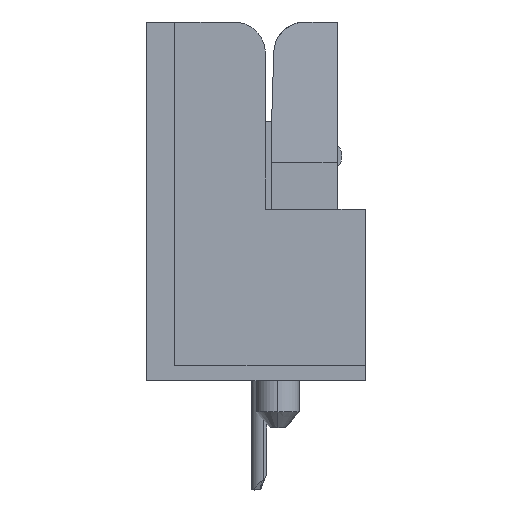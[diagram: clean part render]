
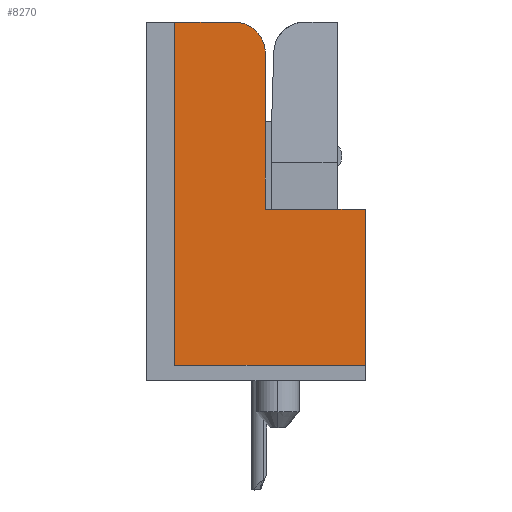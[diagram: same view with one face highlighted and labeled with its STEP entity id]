
A CAD part, left-side view. The second image highlights one B-rep face of the part: STEP entity #8270.
In plain terms, the highlighted planar face has unit normal (-1, 0, 0).
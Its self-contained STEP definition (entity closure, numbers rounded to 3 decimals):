
#24 = VERTEX_POINT ( 'NONE', #21386 ) ;
#878 = VECTOR ( 'NONE', #19267, 1000. ) ;
#1384 = EDGE_CURVE ( 'NONE', #24, #2262, #7777, .T. ) ;
#1605 = EDGE_CURVE ( 'NONE', #2167, #17726, #9692, .T. ) ;
#1692 = CARTESIAN_POINT ( 'NONE',  ( -17.97, 0., 0. ) ) ;
#2066 = CARTESIAN_POINT ( 'NONE',  ( -17.97, 0.9, 5. ) ) ;
#2167 = VERTEX_POINT ( 'NONE', #2803 ) ;
#2262 = VERTEX_POINT ( 'NONE', #18678 ) ;
#2350 = CARTESIAN_POINT ( 'NONE',  ( -17.97, 3.2, 10. ) ) ;
#2483 = DIRECTION ( 'NONE',  ( 1., 0., 0. ) ) ;
#2803 = CARTESIAN_POINT ( 'NONE',  ( -17.97, 3.2, 5. ) ) ;
#3135 = VECTOR ( 'NONE', #12976, 1000. ) ;
#3282 = ORIENTED_EDGE ( 'NONE', *, *, #19515, .F. ) ;
#3381 = VERTEX_POINT ( 'NONE', #16033 ) ;
#3578 = ORIENTED_EDGE ( 'NONE', *, *, #7768, .F. ) ;
#4192 = EDGE_CURVE ( 'NONE', #2262, #17726, #17431, .T. ) ;
#4350 = DIRECTION ( 'NONE',  ( 0., -1., 0. ) ) ;
#5360 = VECTOR ( 'NONE', #14018, 1000. ) ;
#5935 = VECTOR ( 'NONE', #14381, 1000. ) ;
#5944 = PLANE ( 'NONE',  #17317 ) ;
#6397 = DIRECTION ( 'NONE',  ( 0., 0., -1. ) ) ;
#7768 = EDGE_CURVE ( 'NONE', #2167, #16515, #19845, .T. ) ;
#7777 = LINE ( 'NONE', #11436, #3135 ) ;
#8270 = ADVANCED_FACE ( 'NONE', ( #21702 ), #5944, .F. ) ;
#9337 = CARTESIAN_POINT ( 'NONE',  ( -17.97, 6.1, 0. ) ) ;
#9692 = LINE ( 'NONE', #14168, #878 ) ;
#9922 = CARTESIAN_POINT ( 'NONE',  ( -17.97, 6.1, 0. ) ) ;
#10376 = CARTESIAN_POINT ( 'NONE',  ( -17.97, 4.2, 10. ) ) ;
#10819 = ORIENTED_EDGE ( 'NONE', *, *, #4192, .F. ) ;
#11436 = CARTESIAN_POINT ( 'NONE',  ( -17.97, 0., 11. ) ) ;
#11810 = EDGE_CURVE ( 'NONE', #24, #22591, #22055, .T. ) ;
#12122 = ORIENTED_EDGE ( 'NONE', *, *, #11810, .T. ) ;
#12146 = DIRECTION ( 'NONE',  ( 0., 0., 1. ) ) ;
#12976 = DIRECTION ( 'NONE',  ( 0., -1., 0. ) ) ;
#13018 = CARTESIAN_POINT ( 'NONE',  ( -17.97, 0., 0. ) ) ;
#14018 = DIRECTION ( 'NONE',  ( 0., 0., -1. ) ) ;
#14168 = CARTESIAN_POINT ( 'NONE',  ( -17.97, 3.2, 0. ) ) ;
#14381 = DIRECTION ( 'NONE',  ( 0., -1., 0. ) ) ;
#14524 = ORIENTED_EDGE ( 'NONE', *, *, #1605, .T. ) ;
#14780 = DIRECTION ( 'NONE',  ( 0., 0., -1. ) ) ;
#14885 = CARTESIAN_POINT ( 'NONE',  ( -17.97, 0., 0. ) ) ;
#16033 = CARTESIAN_POINT ( 'NONE',  ( -17.97, 0., 0. ) ) ;
#16380 = EDGE_CURVE ( 'NONE', #22591, #3381, #19028, .T. ) ;
#16515 = VERTEX_POINT ( 'NONE', #22208 ) ;
#16911 = VECTOR ( 'NONE', #6397, 1000. ) ;
#17317 = AXIS2_PLACEMENT_3D ( 'NONE', #13018, #2483, #14780 ) ;
#17431 = CIRCLE ( 'NONE', #22572, 1. ) ;
#17726 = VERTEX_POINT ( 'NONE', #2350 ) ;
#17914 = ORIENTED_EDGE ( 'NONE', *, *, #1384, .F. ) ;
#18203 = ORIENTED_EDGE ( 'NONE', *, *, #16380, .T. ) ;
#18470 = VECTOR ( 'NONE', #4350, 1000. ) ;
#18678 = CARTESIAN_POINT ( 'NONE',  ( -17.97, 4.2, 11. ) ) ;
#18715 = LINE ( 'NONE', #1692, #5360 ) ;
#19028 = LINE ( 'NONE', #14885, #18470 ) ;
#19267 = DIRECTION ( 'NONE',  ( 0., 0., 1. ) ) ;
#19515 = EDGE_CURVE ( 'NONE', #16515, #3381, #18715, .T. ) ;
#19845 = LINE ( 'NONE', #2066, #5935 ) ;
#21213 = EDGE_LOOP ( 'NONE', ( #3578, #14524, #10819, #17914, #12122, #18203, #3282 ) ) ;
#21386 = CARTESIAN_POINT ( 'NONE',  ( -17.97, 6.1, 11. ) ) ;
#21702 = FACE_OUTER_BOUND ( 'NONE', #21213, .T. ) ;
#22055 = LINE ( 'NONE', #9922, #16911 ) ;
#22208 = CARTESIAN_POINT ( 'NONE',  ( -17.97, 0., 5. ) ) ;
#22546 = DIRECTION ( 'NONE',  ( 1., 0., 0. ) ) ;
#22572 = AXIS2_PLACEMENT_3D ( 'NONE', #10376, #22546, #12146 ) ;
#22591 = VERTEX_POINT ( 'NONE', #9337 ) ;
